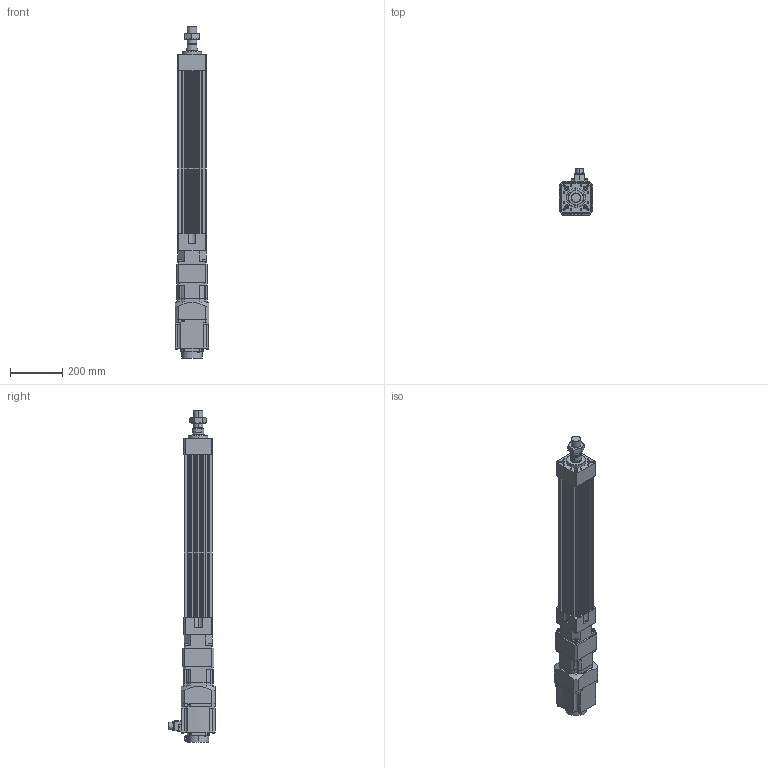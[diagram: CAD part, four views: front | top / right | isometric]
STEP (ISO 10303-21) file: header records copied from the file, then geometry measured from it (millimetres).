
FILE_DESCRIPTION (( 'STEP AP203' ), '1' );
FILE_NAME ('HES110NS(HS)-S450-W015G00-M.STEP', '2023-01-27T10:43:27', ( 'tms' ), ( '' ), 'SwSTEP 2.0', 'SolidWorks 2013', '' );
FILE_SCHEMA (( 'CONFIG_CONTROL_DESIGN' ));
Length unit declared in the file: millimetre
Products named in the file (8): HES110NS(HS)-S450-W015G00-M; M36X1.5P; HES110-S450-G120; P0401400706; AB1151; AB115-003[HG-SR152]; HES110 ROD M ST450; HG-SR152
Assembly tree (7 placements, depth 3):
  HES110NS(HS)-S450-W015G00-M
    HES110-S450-G120
    HES110 ROD M ST450
    M36X1.5P
    AB115-003[HG-SR152]
      AB1151
      P0401400706
    HG-SR152
Bounding box: 130 x 177.49 x 1271.5 mm (x, y, z)
Volume: 8078506.3 mm3; surface area: 1132346.7 mm2
Topology: 4 solids, 15 shells, 1202 faces, 3026 edges, 1951 vertices
Faces by surface type: plane 551, cylinder 537, cone 102, bspline 8, torus 4
Entity records: 37654 total; most frequent: CARTESIAN_POINT 7134, DIRECTION 6533, ORIENTED_EDGE 5960, EDGE_CURVE 2990, AXIS2_PLACEMENT_3D 2410, VERTEX_POINT 1951, VECTOR 1713, LINE 1713
